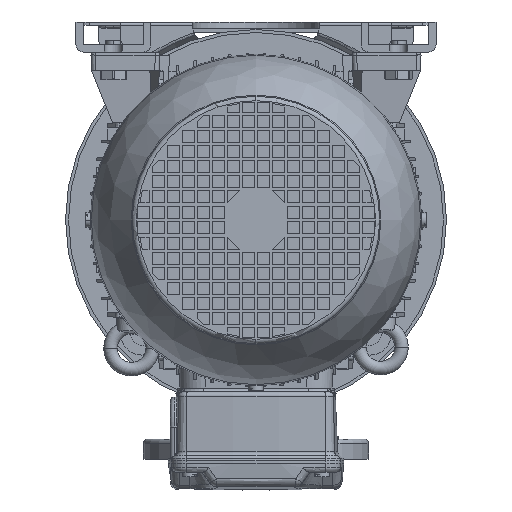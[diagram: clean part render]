
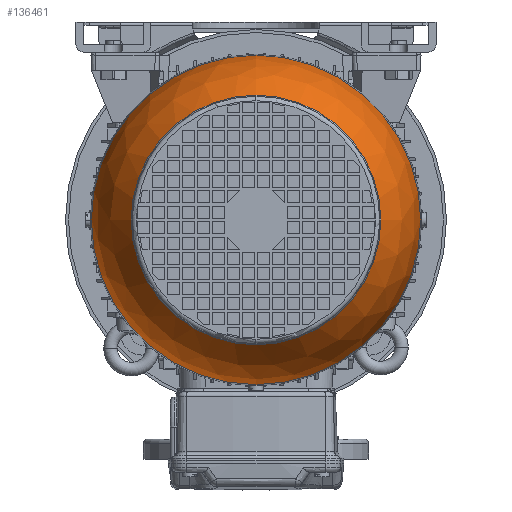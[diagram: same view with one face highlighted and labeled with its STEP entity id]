
A CAD part, front view. The second image highlights one B-rep face of the part: STEP entity #136461.
In plain terms, the highlighted spherical face has radius 109.795 mm.
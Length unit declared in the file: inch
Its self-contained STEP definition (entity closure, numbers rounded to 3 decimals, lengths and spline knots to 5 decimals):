
#995 = CARTESIAN_POINT ( 'NONE',  ( -7.40796, 0., 0. ) ) ;
#8040 = EDGE_CURVE ( 'NONE', #51336, #116061, #48092, .T. ) ;
#10111 = CARTESIAN_POINT ( 'NONE',  ( -4.70174, 4.32114, 0. ) ) ;
#15684 = DIRECTION ( 'NONE',  ( -1., 0., 0. ) ) ;
#19437 = EDGE_CURVE ( 'NONE', #116061, #51336, #168942, .T. ) ;
#21403 = SPHERICAL_SURFACE ( 'NONE', #139020, 4.32262 ) ;
#22466 = AXIS2_PLACEMENT_3D ( 'NONE', #41535, #42427, #136637 ) ;
#26198 = CARTESIAN_POINT ( 'NONE',  ( -7.40796, 3.27661, 0. ) ) ;
#34089 = DIRECTION ( 'NONE',  ( -1., 0., 0. ) ) ;
#41535 = CARTESIAN_POINT ( 'NONE',  ( -7.40796, 0., 0. ) ) ;
#42427 = DIRECTION ( 'NONE',  ( -1., 0., 0. ) ) ;
#45208 = CARTESIAN_POINT ( 'NONE',  ( -7.40796, -3.27661, 0. ) ) ;
#45468 = FACE_OUTER_BOUND ( 'NONE', #68434, .T. ) ;
#48092 = CIRCLE ( 'NONE', #22466, 3.27661 ) ;
#51336 = VERTEX_POINT ( 'NONE', #26198 ) ;
#52844 = CARTESIAN_POINT ( 'NONE',  ( -4.70174, -4.32114, 0. ) ) ;
#53941 = VERTEX_POINT ( 'NONE', #52844 ) ;
#56081 = DIRECTION ( 'NONE',  ( -1., 0., 0. ) ) ;
#59694 = FACE_BOUND ( 'NONE', #130015, .T. ) ;
#68434 = EDGE_LOOP ( 'NONE', ( #101174, #147289 ) ) ;
#70761 = VERTEX_POINT ( 'NONE', #10111 ) ;
#75622 = DIRECTION ( 'NONE',  ( 1., 0., 0. ) ) ;
#76736 = DIRECTION ( 'NONE',  ( 0., -1., 0. ) ) ;
#82382 = CARTESIAN_POINT ( 'NONE',  ( -4.70174, 0., 0. ) ) ;
#90749 = EDGE_CURVE ( 'NONE', #70761, #53941, #137505, .T. ) ;
#99682 = CARTESIAN_POINT ( 'NONE',  ( -4.58858, 0., 0. ) ) ;
#101174 = ORIENTED_EDGE ( 'NONE', *, *, #90749, .T. ) ;
#104289 = CIRCLE ( 'NONE', #115583, 4.32114 ) ;
#109038 = DIRECTION ( 'NONE',  ( 0., -1., 0. ) ) ;
#113894 = DIRECTION ( 'NONE',  ( 0., -1., 0. ) ) ;
#115583 = AXIS2_PLACEMENT_3D ( 'NONE', #130102, #34089, #76736 ) ;
#116061 = VERTEX_POINT ( 'NONE', #45208 ) ;
#124928 = ORIENTED_EDGE ( 'NONE', *, *, #8040, .F. ) ;
#129043 = AXIS2_PLACEMENT_3D ( 'NONE', #82382, #15684, #109038 ) ;
#130015 = EDGE_LOOP ( 'NONE', ( #150929, #124928 ) ) ;
#130102 = CARTESIAN_POINT ( 'NONE',  ( -4.70174, 0., 0. ) ) ;
#136461 = ADVANCED_FACE ( 'NONE', ( #59694, #45468 ), #21403, .T. ) ;
#136637 = DIRECTION ( 'NONE',  ( 0., -1., 0. ) ) ;
#137505 = CIRCLE ( 'NONE', #129043, 4.32114 ) ;
#138667 = DIRECTION ( 'NONE',  ( 0., -1., 0. ) ) ;
#139020 = AXIS2_PLACEMENT_3D ( 'NONE', #99682, #75622, #113894 ) ;
#146256 = AXIS2_PLACEMENT_3D ( 'NONE', #995, #56081, #138667 ) ;
#147289 = ORIENTED_EDGE ( 'NONE', *, *, #173981, .T. ) ;
#150929 = ORIENTED_EDGE ( 'NONE', *, *, #19437, .F. ) ;
#168942 = CIRCLE ( 'NONE', #146256, 3.27661 ) ;
#173981 = EDGE_CURVE ( 'NONE', #53941, #70761, #104289, .T. ) ;
